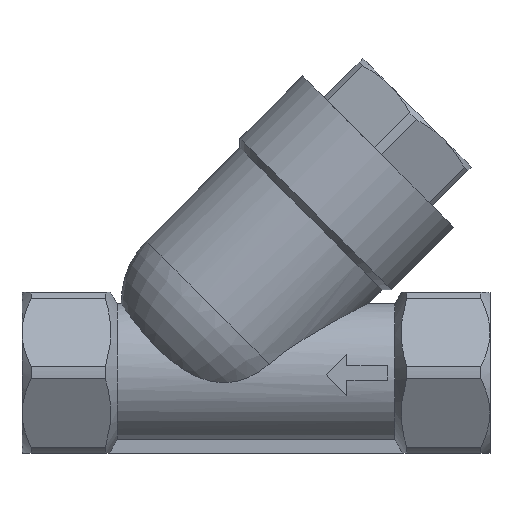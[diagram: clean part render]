
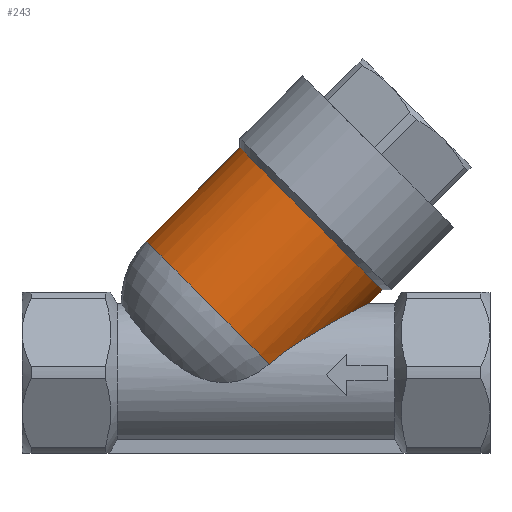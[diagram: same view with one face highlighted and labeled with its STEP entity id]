
A CAD part, top view. The second image highlights one B-rep face of the part: STEP entity #243.
In plain terms, the highlighted cylindrical face has radius 13.75 mm (diameter 27.5 mm), a partial arc.
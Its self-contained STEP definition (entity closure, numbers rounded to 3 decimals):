
#45 = VECTOR ( 'NONE', #860, 1000. ) ;
#92 = VERTEX_POINT ( 'NONE', #236 ) ;
#171 = CARTESIAN_POINT ( 'NONE',  ( 14.884, 9.243, 2.203 ) ) ;
#236 = CARTESIAN_POINT ( 'NONE',  ( 1.802, 1.198, 9.424 ) ) ;
#243 = ADVANCED_FACE ( 'NONE', ( #2574 ), #1713, .T. ) ;
#259 = CARTESIAN_POINT ( 'NONE',  ( 5.04, 3.637, 8.79 ) ) ;
#364 = ORIENTED_EDGE ( 'NONE', *, *, #1509, .F. ) ;
#383 = EDGE_LOOP ( 'NONE', ( #364, #2946, #775, #2895, #1353 ) ) ;
#421 = CARTESIAN_POINT ( 'NONE',  ( 22.021, 35.575, 0. ) ) ;
#425 = CARTESIAN_POINT ( 'NONE',  ( 14.394, 8.992, 3.083 ) ) ;
#568 = EDGE_CURVE ( 'NONE', #2493, #601, #2778, .T. ) ;
#601 = VERTEX_POINT ( 'NONE', #1355 ) ;
#604 = EDGE_CURVE ( 'NONE', #601, #2452, #631, .T. ) ;
#631 = CIRCLE ( 'NONE', #2375, 13.75 ) ;
#634 = CARTESIAN_POINT ( 'NONE',  ( 2.427, 1.732, 9.356 ) ) ;
#657 = CARTESIAN_POINT ( 'NONE',  ( 15.391, 9.5, 0. ) ) ;
#673 = CARTESIAN_POINT ( 'NONE',  ( 13.658, 8.613, 4.021 ) ) ;
#775 = ORIENTED_EDGE ( 'NONE', *, *, #604, .F. ) ;
#860 = DIRECTION ( 'NONE',  ( 0.707, 0.707, 0. ) ) ;
#872 = CARTESIAN_POINT ( 'NONE',  ( 15.391, 9.5, 0. ) ) ;
#931 = CARTESIAN_POINT ( 'NONE',  ( 12.832, 8.181, 4.839 ) ) ;
#1096 = EDGE_CURVE ( 'NONE', #2493, #92, #2165, .T. ) ;
#1152 = DIRECTION ( 'NONE',  ( 0.707, 0.707, 0. ) ) ;
#1181 = CARTESIAN_POINT ( 'NONE',  ( 15.323, 9.466, 0.832 ) ) ;
#1196 = CARTESIAN_POINT ( 'NONE',  ( 11.936, 7.705, 5.564 ) ) ;
#1263 = CARTESIAN_POINT ( 'NONE',  ( 17.248, 11.357, 0. ) ) ;
#1340 = DIRECTION ( 'NONE',  ( -0.707, 0.707, 0. ) ) ;
#1353 = ORIENTED_EDGE ( 'NONE', *, *, #1096, .T. ) ;
#1355 = CARTESIAN_POINT ( 'NONE',  ( -2.198, 30.802, 0. ) ) ;
#1392 = AXIS2_PLACEMENT_3D ( 'NONE', #421, #1972, #2465 ) ;
#1431 = CARTESIAN_POINT ( 'NONE',  ( 15.18, 9.393, 1.435 ) ) ;
#1509 = EDGE_CURVE ( 'NONE', #2650, #92, #1544, .T. ) ;
#1544 = B_SPLINE_CURVE_WITH_KNOTS ( 'NONE', 3,
 ( #657, #2212, #2725, #1181, #2991, #1431, #3243, #1694, #171, #1959, #425, #2220, #673, #2469, #931, #2737, #1196, #2999, #2783, #3044, #2701, #2751, #2369, #259, #2655, #2982, #634, #1641 ),
 .UNSPECIFIED., .F., .F.,
 ( 4, 2, 2, 2, 2, 2, 2, 2, 2, 2, 2, 2, 2, 4 ),
 ( 0.038, 0.038, 0.039, 0.039, 0.04, 0.041, 0.042, 0.044, 0.045, 0.047, 0.05, 0.052, 0.055, 0.057 ),
 .UNSPECIFIED. ) ;
#1550 = VECTOR ( 'NONE', #3035, 1000. ) ;
#1599 = CARTESIAN_POINT ( 'NONE',  ( 7.525, 21.08, 0. ) ) ;
#1641 = CARTESIAN_POINT ( 'NONE',  ( 1.802, 1.198, 9.424 ) ) ;
#1694 = CARTESIAN_POINT ( 'NONE',  ( 14.968, 9.285, 2.018 ) ) ;
#1713 = CYLINDRICAL_SURFACE ( 'NONE', #1392, 13.75 ) ;
#1959 = CARTESIAN_POINT ( 'NONE',  ( 14.61, 9.103, 2.744 ) ) ;
#1972 = DIRECTION ( 'NONE',  ( 0.707, 0.707, 0. ) ) ;
#2165 = CIRCLE ( 'NONE', #3156, 13.75 ) ;
#2212 = CARTESIAN_POINT ( 'NONE',  ( 15.391, 9.5, 0.209 ) ) ;
#2220 = CARTESIAN_POINT ( 'NONE',  ( 13.916, 8.746, 3.725 ) ) ;
#2369 = CARTESIAN_POINT ( 'NONE',  ( 6.381, 4.509, 8.376 ) ) ;
#2375 = AXIS2_PLACEMENT_3D ( 'NONE', #1599, #3153, #1340 ) ;
#2452 = VERTEX_POINT ( 'NONE', #1263 ) ;
#2465 = DIRECTION ( 'NONE',  ( -0.707, 0.707, 0. ) ) ;
#2469 = CARTESIAN_POINT ( 'NONE',  ( 13.116, 8.33, 4.578 ) ) ;
#2493 = VERTEX_POINT ( 'NONE', #2577 ) ;
#2574 = FACE_OUTER_BOUND ( 'NONE', #383, .T. ) ;
#2577 = CARTESIAN_POINT ( 'NONE',  ( -15., 18., 0. ) ) ;
#2650 = VERTEX_POINT ( 'NONE', #872 ) ;
#2655 = CARTESIAN_POINT ( 'NONE',  ( 4.376, 3.184, 8.964 ) ) ;
#2692 = CARTESIAN_POINT ( 'NONE',  ( -5.277, 8.277, 0. ) ) ;
#2701 = CARTESIAN_POINT ( 'NONE',  ( 8.396, 5.731, 7.592 ) ) ;
#2725 = CARTESIAN_POINT ( 'NONE',  ( 15.377, 9.493, 0.42 ) ) ;
#2737 = CARTESIAN_POINT ( 'NONE',  ( 12.242, 7.868, 5.331 ) ) ;
#2751 = CARTESIAN_POINT ( 'NONE',  ( 7.058, 4.929, 8.135 ) ) ;
#2778 = LINE ( 'NONE', #2938, #45 ) ;
#2783 = CARTESIAN_POINT ( 'NONE',  ( 10.362, 6.85, 6.602 ) ) ;
#2895 = ORIENTED_EDGE ( 'NONE', *, *, #568, .F. ) ;
#2900 = EDGE_CURVE ( 'NONE', #2650, #2452, #2929, .T. ) ;
#2929 = LINE ( 'NONE', #3280, #1550 ) ;
#2938 = CARTESIAN_POINT ( 'NONE',  ( 12.298, 45.298, 0. ) ) ;
#2946 = ORIENTED_EDGE ( 'NONE', *, *, #2900, .T. ) ;
#2962 = DIRECTION ( 'NONE',  ( -0.707, 0.707, 0. ) ) ;
#2982 = CARTESIAN_POINT ( 'NONE',  ( 3.07, 2.231, 9.248 ) ) ;
#2991 = CARTESIAN_POINT ( 'NONE',  ( 15.283, 9.446, 1.035 ) ) ;
#2999 = CARTESIAN_POINT ( 'NONE',  ( 11.003, 7.202, 6.22 ) ) ;
#3035 = DIRECTION ( 'NONE',  ( 0.707, 0.707, 0. ) ) ;
#3044 = CARTESIAN_POINT ( 'NONE',  ( 9.059, 6.115, 7.288 ) ) ;
#3153 = DIRECTION ( 'NONE',  ( 0.707, 0.707, 0. ) ) ;
#3156 = AXIS2_PLACEMENT_3D ( 'NONE', #2692, #1152, #2962 ) ;
#3243 = CARTESIAN_POINT ( 'NONE',  ( 15.116, 9.361, 1.634 ) ) ;
#3280 = CARTESIAN_POINT ( 'NONE',  ( 31.744, 25.853, 0. ) ) ;
